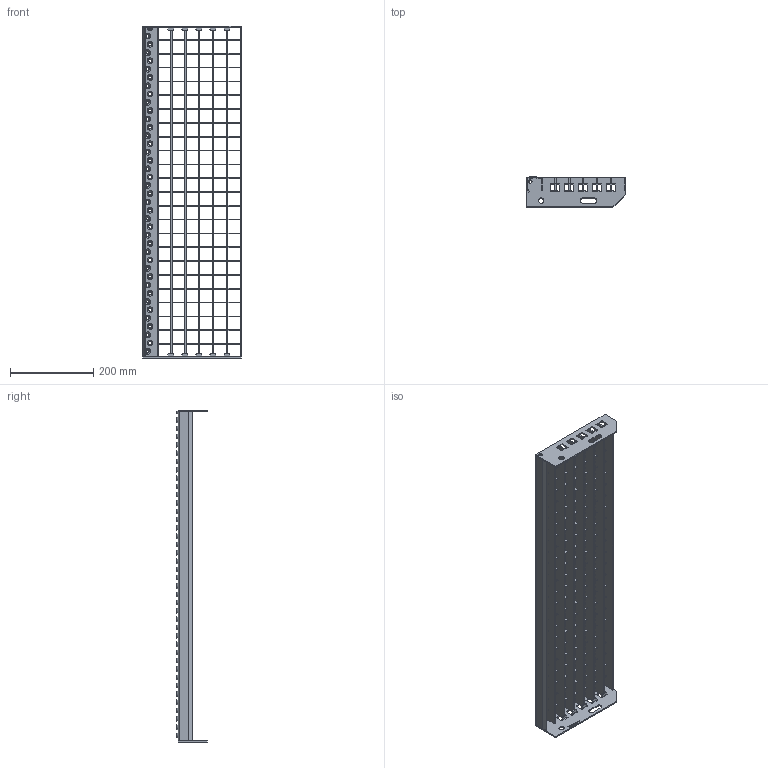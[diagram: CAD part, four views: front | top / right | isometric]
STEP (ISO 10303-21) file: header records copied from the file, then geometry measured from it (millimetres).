
FILE_DESCRIPTION(/* description */ ('','CAx-IF Rec.Pracs.---Representation and Presentation of Product Manufacturing Information (PMI)---3.8---2014-02-18'),/* implementation_level */ '2;1');
FILE_NAME(/* name */ 'C:\Users\phaverkotte\Desktop\Lager STEP\P-Stufen\PX3 330-33-3\PX3 330-33-3 800mm x 240mm.stp',/* time_stamp */ '2018-03-24T10:10:52+01:00',/* author */ ('phaverkotte'),/* organization */ (''),/* preprocessor_version */ 'ST-DEVELOPER v16.13',/* originating_system */ 'Autodesk Inventor 2018',/* authorisation */ '');
FILE_SCHEMA (('AP242_MANAGED_MODEL_BASED_3D_ENGINEERING_MIM_LF { 1 0 10303 442 1 1 4 }'));
Length unit declared in the file: millimetre
Products named in the file (8): Schodišťový stupeň přím
ý lisovaný; Seitenplatte ausgeklinkt links; Seitenplatte 240 ausgeklinkt extern rechts; Schod nášlap; P Rošt schodu; Querstab; P Nosný pás; Hinteres Flach
Assembly tree (34 placements, depth 3):
  Schodišťový stupeň přím
ý lisovaný
    Seitenplatte ausgeklinkt links
    Seitenplatte 240 ausgeklinkt extern rechts
    Schod nášlap
    P Rošt schodu
      Querstab  x23
      P Nosný pás  x6
      Hinteres Flach
Bounding box: 237.98 x 72.75 x 800 mm (x, y, z)
Volume: 745571.9 mm3; surface area: 631739.4 mm2
Topology: 33 solids, 33 shells, 2645 faces, 7588 edges, 5026 vertices
Faces by surface type: plane 1674, cylinder 791, cone 120, torus 40, bspline 20
Full cylindrical faces by diameter (mm): 8 x2, 13 x2
Entity records: 28744 total; most frequent: CARTESIAN_POINT 7825, DIRECTION 4215, ORIENTED_EDGE 4054, EDGE_CURVE 2027, LINE 1425, VECTOR 1425, VERTEX_POINT 1399, AXIS2_PLACEMENT_3D 1395
